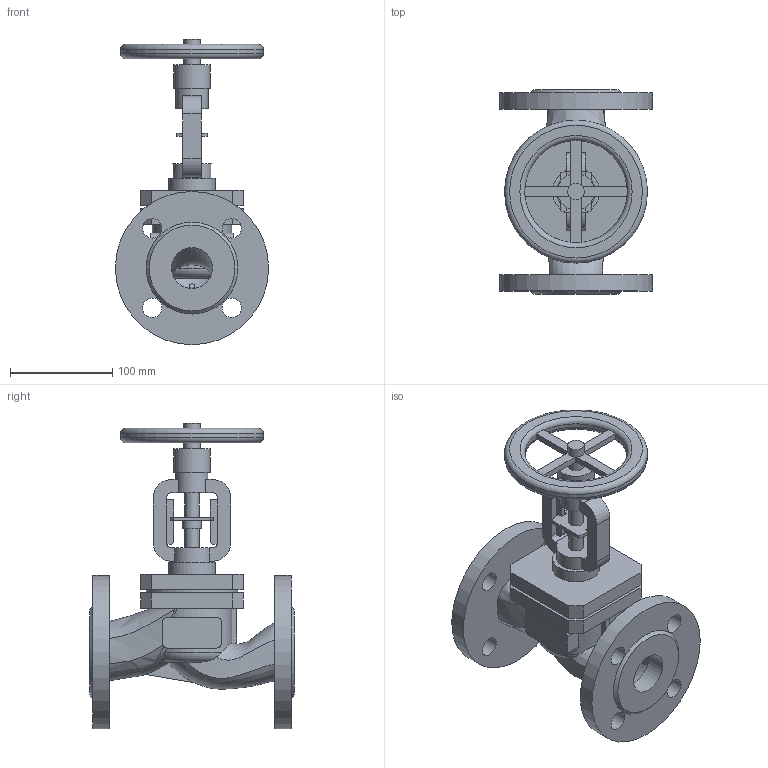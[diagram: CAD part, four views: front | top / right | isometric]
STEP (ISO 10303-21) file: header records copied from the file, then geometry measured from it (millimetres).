
FILE_DESCRIPTION(('STEP AP203'), '1');
FILE_NAME('Êëàïàí çàïîðíî-ðåãóëèðóþùèé BV2F DN40', '2026-09-22T07:50:47', ('Ýíåðãèÿ'), (''), 'ASCON STEP Converter 1.6', 'ASCON Math Kernel', '');
FILE_SCHEMA(('CONFIG_CONTROL_DESIGN'));
Length unit declared in the file: millimetre
Bounding box: 150 x 200 x 299 mm (x, y, z)
Volume: 1470704.2 mm3; surface area: 233446.8 mm2
Topology: 1 solids, 1 shells, 212 faces, 579 edges, 383 vertices
Faces by surface type: plane 117, cylinder 60, bspline 26, torus 7, cone 2
Full cylindrical faces by diameter (mm): 14 x2, 16 x1, 18 x1, 19 x8, 32 x1, 36 x1, 38 x1, 40 x1, 46 x1, 90 x1, 140 x1, 150 x2
Entity records: 22333 total; most frequent: CARTESIAN_POINT 15479, ORIENTED_EDGE 1098, DIRECTION 945, EDGE_CURVE 549, VERTEX_POINT 383, AXIS2_PLACEMENT_3D 347, EDGE_LOOP 284, LINE 251
